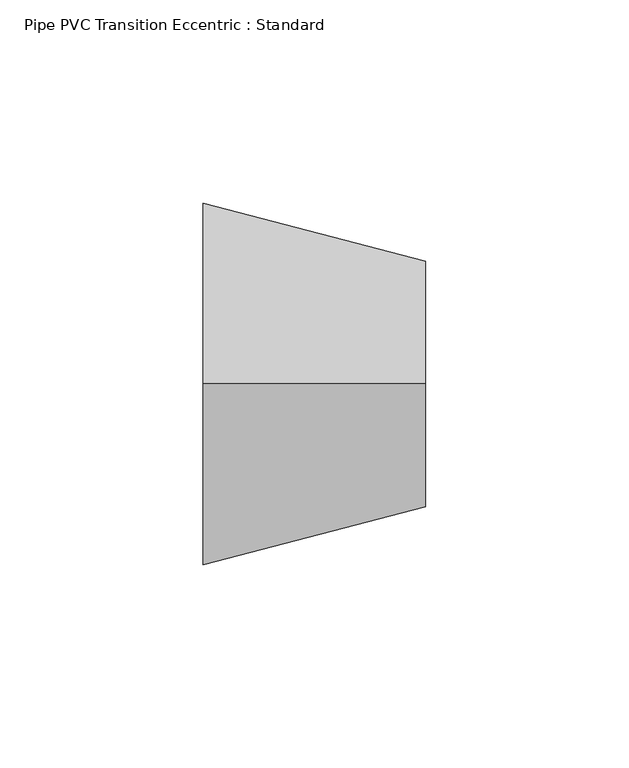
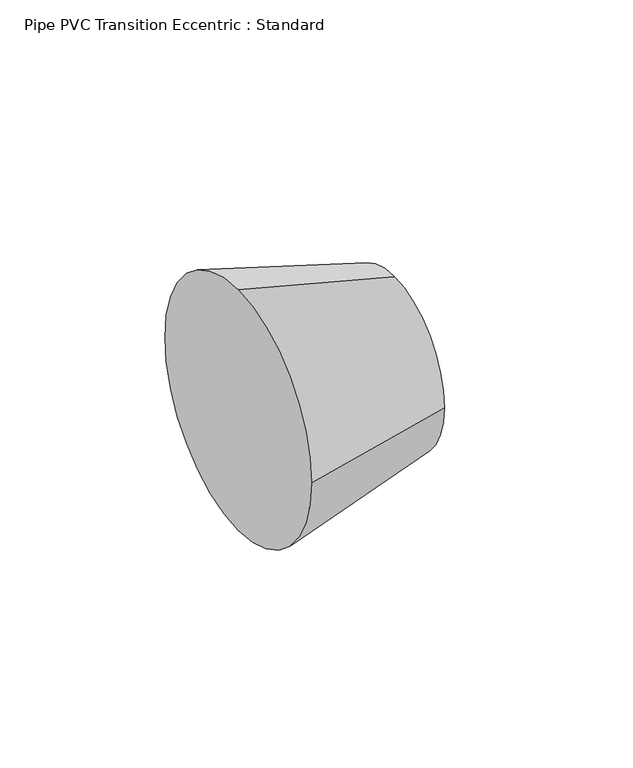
"""IFC4 building model written with IfcOpenShell, lengths in millimetres: pipe fitting geometry, Pipe PVC Transition Eccentric : Standard."""

from ifc_helpers import new_model, si_unit, frame, origin, place, context, project, spatial, polyline, circle_curve, source, transform, mapped, element, save
from ifc_brep_helpers import plane_surface, revolved_surface, advanced_brep


def pipe_pvc_transition_eccentric_standard_66668254(model_context):
    return source(origin(), model_context, "Body", "AdvancedBrep", [
        advanced_brep(
        [(54.76875, 0.0, 30.1625), (54.76875, -30.1625, 0.0), (54.76875, 0.0, -30.1625), (54.76875, 30.1625, 0.0), (0.0, 0.0, 44.45), (0.0, 44.45, 0.0), (0.0, 0.0, -44.45), (0.0, -44.45, 0.0)],
        [
            (0, 1, circle_curve(frame((54.76875, 0.0, 0.0), z_axis=(1.0, 0.0, 0.0), x_axis=(0.0, 0.0, 1.0)), 30.1625)),
            (1, 2, circle_curve(frame((54.76875, 0.0, 0.0), z_axis=(1.0, 0.0, 0.0), x_axis=(0.0, -1.0, 0.0)), 30.1625)),
            (2, 3, circle_curve(frame((54.76875, 0.0, 0.0), z_axis=(1.0, 0.0, 0.0), x_axis=(0.0, 0.0, -1.0)), 30.1625)),
            (3, 0, circle_curve(frame((54.76875, 0.0, 0.0), z_axis=(1.0, 0.0, 0.0), x_axis=(0.0, 1.0, 0.0)), 30.1625)),
            (4, 5, circle_curve(frame((0.0, 0.0, 0.0), z_axis=(-1.0, 0.0, 0.0), x_axis=(0.0, 1.0, 0.0)), 44.45)),
            (5, 6, circle_curve(frame((0.0, 0.0, 0.0), z_axis=(-1.0, 0.0, 0.0), x_axis=(0.0, 0.0, -1.0)), 44.45)),
            (6, 7, circle_curve(frame((0.0, 0.0, 0.0), z_axis=(-1.0, 0.0, 0.0), x_axis=(0.0, -1.0, 0.0)), 44.45)),
            (7, 4, circle_curve(frame((0.0, 0.0, 0.0), z_axis=(-1.0, 0.0, 0.0), x_axis=(0.0, 0.0, 1.0)), 44.45)),
            (7, 1),
            (0, 4),
            (6, 2),
            (5, 3),
        ],
        [
            plane_surface(frame((54.76875, 0.0, 0.0), z_axis=(1.0, 0.0, 0.0), x_axis=(0.0, -1.0, 0.0))),
            plane_surface(frame((0.0, 0.0, 0.0), z_axis=(-1.0, 0.0, 0.0), x_axis=(0.0, -1.0, 0.0))),
            revolved_surface(polyline([(54.76875, 0.0, 30.162500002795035), (0.0, 0.0, 44.45)]), (170.3916667, 0.0, 0.0), (-1.0, 0.0, 0.0)),
            revolved_surface(polyline([(54.76875, -30.162500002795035, 0.0), (0.0, -44.45, 0.0)]), (170.3916667, 0.0, 0.0), (-1.0, 0.0, 0.0)),
            revolved_surface(polyline([(54.76875, 0.0, -30.162500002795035), (0.0, 0.0, -44.45)]), (170.3916667, 0.0, 0.0), (-1.0, 0.0, 0.0)),
            revolved_surface(polyline([(54.76875, 30.162500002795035, 0.0), (0.0, 44.45, 0.0)]), (170.3916667, 0.0, 0.0), (-1.0, 0.0, 0.0)),
        ],
        [
            (0, [[1, 2, 3, 4]]),
            (1, [[5, 6, 7, 8]]),
            (2, [[-8, 9, -1, 10]]),
            (3, [[-7, 11, -2, -9]]),
            (4, [[-6, 12, -3, -11]]),
            (5, [[-5, -10, -4, -12]]),
        ],
    ),
        advanced_brep(
        [(54.76875, 0.0, 30.1625), (54.76875, -30.1625, 0.0), (54.76875, 0.0, -30.1625), (54.76875, 30.1625, 0.0), (0.0, 0.0, 44.45), (0.0, 44.45, 0.0), (0.0, 0.0, -44.45), (0.0, -44.45, 0.0)],
        [
            (0, 1, circle_curve(frame((54.76875, 0.0, 0.0), z_axis=(1.0, 0.0, 0.0), x_axis=(0.0, 0.0, 1.0)), 30.1625)),
            (1, 2, circle_curve(frame((54.76875, 0.0, 0.0), z_axis=(1.0, 0.0, 0.0), x_axis=(0.0, -1.0, 0.0)), 30.1625)),
            (2, 3, circle_curve(frame((54.76875, 0.0, 0.0), z_axis=(1.0, 0.0, 0.0), x_axis=(0.0, 0.0, -1.0)), 30.1625)),
            (3, 0, circle_curve(frame((54.76875, 0.0, 0.0), z_axis=(1.0, 0.0, 0.0), x_axis=(0.0, 1.0, 0.0)), 30.1625)),
            (4, 5, circle_curve(frame((0.0, 0.0, 0.0), z_axis=(-1.0, 0.0, 0.0), x_axis=(0.0, 1.0, 0.0)), 44.45)),
            (5, 6, circle_curve(frame((0.0, 0.0, 0.0), z_axis=(-1.0, 0.0, 0.0), x_axis=(0.0, 0.0, -1.0)), 44.45)),
            (6, 7, circle_curve(frame((0.0, 0.0, 0.0), z_axis=(-1.0, 0.0, 0.0), x_axis=(0.0, -1.0, 0.0)), 44.45)),
            (7, 4, circle_curve(frame((0.0, 0.0, 0.0), z_axis=(-1.0, 0.0, 0.0), x_axis=(0.0, 0.0, 1.0)), 44.45)),
            (7, 1),
            (0, 4),
            (6, 2),
            (5, 3),
        ],
        [
            plane_surface(frame((54.76875, 0.0, 0.0), z_axis=(1.0, 0.0, 0.0), x_axis=(0.0, -1.0, 0.0))),
            plane_surface(frame((0.0, 0.0, 0.0), z_axis=(-1.0, 0.0, 0.0), x_axis=(0.0, -1.0, 0.0))),
            revolved_surface(polyline([(54.76875, 0.0, 30.162500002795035), (0.0, 0.0, 44.45)]), (170.3916667, 0.0, 0.0), (-1.0, 0.0, 0.0)),
            revolved_surface(polyline([(54.76875, -30.162500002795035, 0.0), (0.0, -44.45, 0.0)]), (170.3916667, 0.0, 0.0), (-1.0, 0.0, 0.0)),
            revolved_surface(polyline([(54.76875, 0.0, -30.162500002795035), (0.0, 0.0, -44.45)]), (170.3916667, 0.0, 0.0), (-1.0, 0.0, 0.0)),
            revolved_surface(polyline([(54.76875, 30.162500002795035, 0.0), (0.0, 44.45, 0.0)]), (170.3916667, 0.0, 0.0), (-1.0, 0.0, 0.0)),
        ],
        [
            (0, [[1, 2, 3, 4]]),
            (1, [[5, 6, 7, 8]]),
            (2, [[-8, 9, -1, 10]]),
            (3, [[-7, 11, -2, -9]]),
            (4, [[-6, 12, -3, -11]]),
            (5, [[-5, -10, -4, -12]]),
        ],
    ),
    ])


if __name__ == "__main__":
    model = new_model("IFC4")
    model_context = context("Model", 3, world=origin())
    ifc_project = project(units=[si_unit("LENGTHUNIT", "METRE", prefix="MILLI")], contexts=[model_context])
    site = spatial("IfcSite", under=ifc_project)
    building = spatial("IfcBuilding", under=site)
    placement = place(None, origin())
    pipe_pvc_transition_eccentric_standard_shape = pipe_pvc_transition_eccentric_standard_66668254(model_context)
    element("IfcPipeFitting", 1, ObjectType="Pipe PVC Transition Eccentric : Standard", at=placement, inside=building, context=model_context, shape_type="MappedRepresentation", body=[
        mapped(pipe_pvc_transition_eccentric_standard_shape, transform((0.0, 0.0, 0.0), x_axis=(1.0, 0.0, 0.0), y_axis=(0.0, 1.0, 0.0), z_axis=(0.0, 0.0, 1.0))),
    ])
    save(model, "model.ifc")
